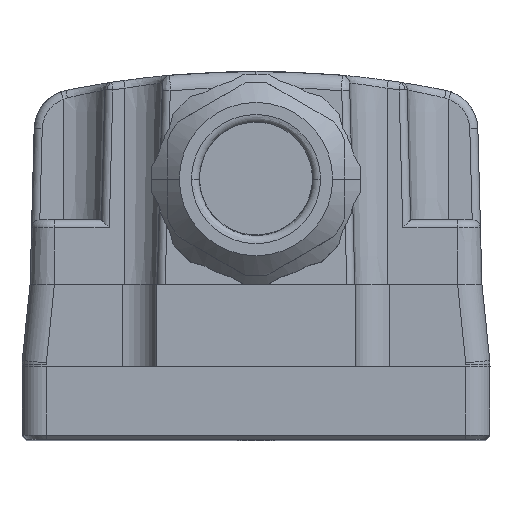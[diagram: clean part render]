
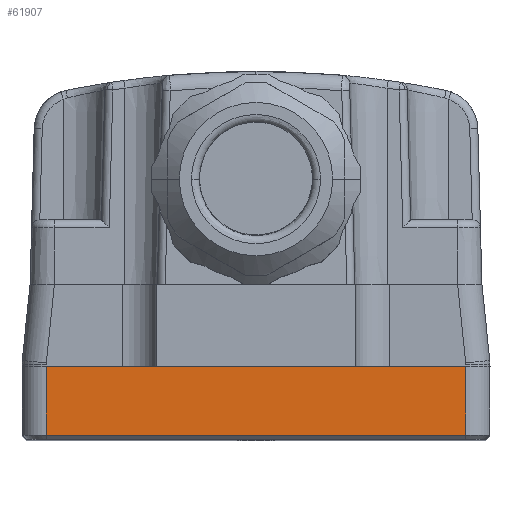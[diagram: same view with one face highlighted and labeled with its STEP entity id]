
A CAD part, top view. The second image highlights one B-rep face of the part: STEP entity #61907.
In plain terms, the highlighted planar face has unit normal (0, 0, 1).
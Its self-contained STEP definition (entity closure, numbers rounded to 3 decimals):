
#51753=DIRECTION('',(0.,-1.,0.));
#51754=VECTOR('',#51753,8.5);
#51755=CARTESIAN_POINT('',(-26.,9.,153.));
#51756=LINE('',#51755,#51754);
#51757=DIRECTION('',(1.,0.,0.));
#51758=VECTOR('',#51757,52.);
#51759=CARTESIAN_POINT('',(-26.,9.,153.));
#51760=LINE('',#51759,#51758);
#51761=DIRECTION('',(-1.,0.,0.));
#51762=VECTOR('',#51761,52.);
#51763=CARTESIAN_POINT('',(26.,0.5,
153.));
#51764=LINE('',#51763,#51762);
#51765=DIRECTION('',(0.,1.,0.));
#51766=VECTOR('',#51765,8.5);
#51767=CARTESIAN_POINT('',(26.,0.5,
153.));
#51768=LINE('',#51767,#51766);
#58671=CARTESIAN_POINT('',(26.,9.,153.));
#58672=VERTEX_POINT('',#58671);
#58673=CARTESIAN_POINT('',(-26.,9.,153.));
#58674=VERTEX_POINT('',#58673);
#58699=CARTESIAN_POINT('',(-26.,0.5,
153.));
#58700=VERTEX_POINT('',#58699);
#58701=CARTESIAN_POINT('',(26.,0.5,
153.));
#58702=VERTEX_POINT('',#58701);
#61894=CARTESIAN_POINT('',(0.,4.5,153.));
#61895=DIRECTION('',(0.,0.,1.));
#61896=DIRECTION('',(1.,0.,0.));
#61897=AXIS2_PLACEMENT_3D('',#61894,#61895,#61896);
#61898=PLANE('',#61897);
#61899=ORIENTED_EDGE('',*,*,#61887,.F.);
#61900=ORIENTED_EDGE('',*,*,#61774,.T.);
#61902=ORIENTED_EDGE('',*,*,#61901,.F.);
#61904=ORIENTED_EDGE('',*,*,#61903,.T.);
#61905=EDGE_LOOP('',(#61899,#61900,#61902,#61904));
#61906=FACE_OUTER_BOUND('',#61905,.F.);
#61907=ADVANCED_FACE('',(#61906),#61898,.T.);
#61774=EDGE_CURVE('',#58674,#58672,#51760,.T.);
#61887=EDGE_CURVE('',#58674,#58700,#51756,.T.);
#61901=EDGE_CURVE('',#58702,#58672,#51768,.T.);
#61903=EDGE_CURVE('',#58702,#58700,#51764,.T.);
